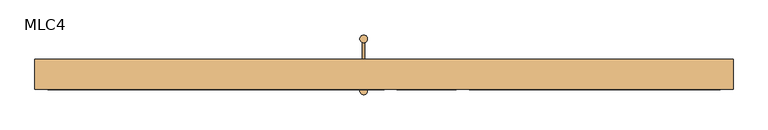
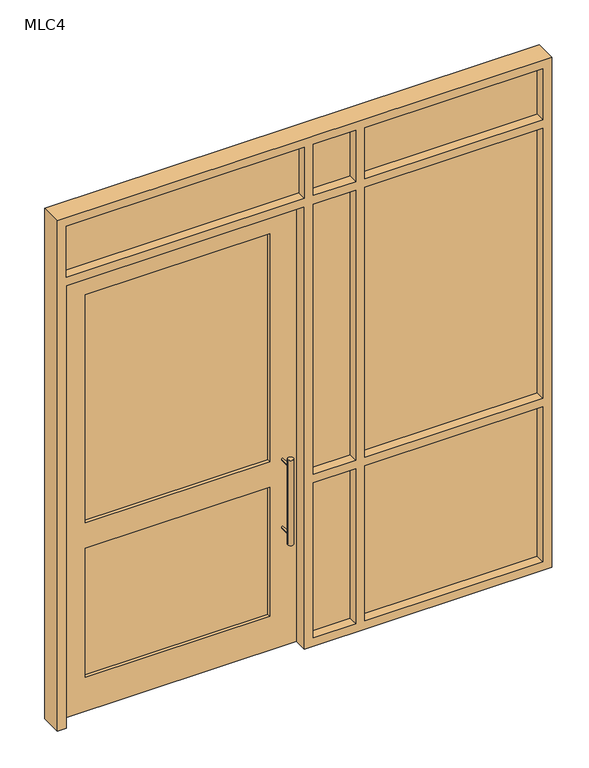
"""IFC4 building model written with IfcOpenShell, lengths in millimetres: door geometry, 单嵌板连窗玻璃门 1 : MLC4."""

from ifc_helpers import new_model, si_unit, point, frame, frame_2d, origin, place, context, project, spatial, polyline, circle_curve, trimmed, segment, composite_curve, outline, extrude, source, transform, mapped, element, save


def mlc4_21794f08(model_context):
    return source(origin(), model_context, "Body", "SweptSolid", [
        extrude(outline(composite_curve([segment(trimmed(circle_curve(frame_2d((-80.0, 130.0)), 15.0), [point((-95.0, 130.0))], [point((-65.0, 130.0))], False, "CARTESIAN"), True, "CONTINUOUS"), segment(trimmed(circle_curve(frame_2d((-80.0, 130.0)), 15.0), [point((-65.0, 130.0))], [point((-95.0, 130.0))], False, "CARTESIAN"), True, "CONTINUOUS")], self_intersect=False)), frame((0.0, 0.0, 650.0), z_axis=(0.0, 0.0, 1.0), x_axis=(1.0, 0.0, 0.0)), (0.0, 0.0, 1.0), 500.0),
        extrude(outline(composite_curve([segment(trimmed(circle_curve(frame_2d((1100.0, -80.0)), 5.0), [point((1100.0, -85.0))], [point((1100.0, -75.0))], False, "CARTESIAN"), True, "CONTINUOUS"), segment(trimmed(circle_curve(frame_2d((1100.0, -80.0)), 5.0), [point((1100.0, -75.0))], [point((1100.0, -85.0))], False, "CARTESIAN"), True, "CONTINUOUS")], self_intersect=False)), frame((0.0, 50.0, 0.0), z_axis=(0.0, 1.0, 0.0), x_axis=(0.0, 0.0, 1.0)), (0.0, 0.0, 1.0), 80.0),
        extrude(outline(composite_curve([segment(trimmed(circle_curve(frame_2d((700.0, -80.0)), 5.0), [point((700.0, -85.0))], [point((700.0, -75.0))], False, "CARTESIAN"), True, "CONTINUOUS"), segment(trimmed(circle_curve(frame_2d((700.0, -80.0)), 5.0), [point((700.0, -75.0))], [point((700.0, -85.0))], False, "CARTESIAN"), True, "CONTINUOUS")], self_intersect=False)), frame((0.0, 50.0, 0.0), z_axis=(0.0, 1.0, 0.0), x_axis=(0.0, 0.0, 1.0)), (0.0, 0.0, 1.0), 80.0),
        extrude(outline(composite_curve([segment(trimmed(circle_curve(frame_2d((1100.0, -80.0)), 5.0), [point((1100.0, -85.0))], [point((1100.0, -75.0))], False, "CARTESIAN"), True, "CONTINUOUS"), segment(trimmed(circle_curve(frame_2d((1100.0, -80.0)), 5.0), [point((1100.0, -75.0))], [point((1100.0, -85.0))], False, "CARTESIAN"), True, "CONTINUOUS")], self_intersect=False)), frame((0.0, -75.0, 0.0), z_axis=(0.0, 1.0, 0.0), x_axis=(0.0, 0.0, 1.0)), (0.0, 0.0, 1.0), 80.0),
        extrude(outline(composite_curve([segment(trimmed(circle_curve(frame_2d((700.0, -80.0)), 5.0), [point((700.0, -85.0))], [point((700.0, -75.0))], False, "CARTESIAN"), True, "CONTINUOUS"), segment(trimmed(circle_curve(frame_2d((700.0, -80.0)), 5.0), [point((700.0, -75.0))], [point((700.0, -85.0))], False, "CARTESIAN"), True, "CONTINUOUS")], self_intersect=False)), frame((0.0, -75.0, 0.0), z_axis=(0.0, 1.0, 0.0), x_axis=(0.0, 0.0, 1.0)), (0.0, 0.0, 1.0), 80.0),
        extrude(outline(composite_curve([segment(trimmed(circle_curve(frame_2d((-80.0, -75.0)), 15.0), [point((-95.0, -75.0))], [point((-65.0, -75.0))], False, "CARTESIAN"), True, "CONTINUOUS"), segment(trimmed(circle_curve(frame_2d((-80.0, -75.0)), 15.0), [point((-65.0, -75.0))], [point((-95.0, -75.0))], False, "CARTESIAN"), True, "CONTINUOUS")], self_intersect=False)), frame((0.0, 0.0, 650.0), z_axis=(0.0, 0.0, 1.0), x_axis=(1.0, 0.0, 0.0)), (0.0, 0.0, 1.0), 500.0),
        extrude(outline(polyline([(-150.0, 24.325), (-1175.0, 24.325), (-1175.0, 30.675), (-150.0, 30.675), (-150.0, 24.325)])), frame((0.0, 0.0, 200.0), z_axis=(0.0, 0.0, 1.0), x_axis=(1.0, 0.0, 0.0)), (0.0, 0.0, 1.0), 760.0),
        extrude(outline(polyline([(-150.0, 24.325), (-1175.0, 24.325), (-1175.0, 30.675), (-150.0, 30.675), (-150.0, 24.325)])), frame((0.0, 0.0, 1110.0), z_axis=(0.0, 0.0, 1.0), x_axis=(1.0, 0.0, 0.0)), (0.0, 0.0, 1.0), 1340.0),
        extrude(outline(polyline([(2600.0, -1325.0), (0.0, -1325.0), (0.0, 0.0), (2600.0, 0.0), (2600.0, -1325.0)]), holes=[polyline([(2450.0, -1175.0), (2450.0, -150.0), (1110.0, -150.0), (1110.0, -1175.0), (2450.0, -1175.0)]), polyline([(960.0, -150.0), (200.0, -150.0), (200.0, -1175.0), (960.0, -1175.0), (960.0, -150.0)])]), frame((0.0, 5.0, 0.0), z_axis=(0.0, 1.0, 0.0), x_axis=(0.0, 0.0, 1.0)), (0.0, 0.0, 1.0), 45.0),
        extrude(outline(polyline([(1325.0, -16.4), (334.8, -16.4), (334.8, -3.6), (1325.0, -3.6), (1325.0, -16.4)])), frame((0.0, 0.0, 1010.0), z_axis=(0.0, 0.0, 1.0), x_axis=(1.0, 0.0, 0.0)), (0.0, 0.0, 1.0), 1590.0),
        extrude(outline(polyline([(1325.0, -16.4), (334.8, -16.4), (334.8, -3.6), (1325.0, -3.6), (1325.0, -16.4)])), frame((0.0, 0.0, 50.0), z_axis=(0.0, 0.0, 1.0), x_axis=(1.0, 0.0, 0.0)), (0.0, 0.0, 1.0), 910.0),
        extrude(outline(polyline([(284.8, -16.4), (50.0, -16.4), (50.0, -3.6), (284.8, -3.6), (284.8, -16.4)])), frame((0.0, 0.0, 50.0), z_axis=(0.0, 0.0, 1.0), x_axis=(1.0, 0.0, 0.0)), (0.0, 0.0, 1.0), 910.0),
        extrude(outline(polyline([(284.8, -16.4), (50.0, -16.4), (50.0, -3.6), (284.8, -3.6), (284.8, -16.4)])), frame((0.0, 0.0, 1010.0), z_axis=(0.0, 0.0, 1.0), x_axis=(1.0, 0.0, 0.0)), (0.0, 0.0, 1.0), 1590.0),
        extrude(outline(polyline([(284.8, -16.4), (50.0, -16.4), (50.0, -3.6), (284.8, -3.6), (284.8, -16.4)])), frame((0.0, 0.0, 2650.0), z_axis=(0.0, 0.0, 1.0), x_axis=(1.0, 0.0, 0.0)), (0.0, 0.0, 1.0), 300.0),
        extrude(outline(polyline([(1325.0, -16.4), (334.8, -16.4), (334.8, -3.6), (1325.0, -3.6), (1325.0, -16.4)])), frame((0.0, 0.0, 2650.0), z_axis=(0.0, 0.0, 1.0), x_axis=(1.0, 0.0, 0.0)), (0.0, 0.0, 1.0), 300.0),
        extrude(outline(polyline([(0.0, -16.4), (-1325.0, -16.4), (-1325.0, -3.6), (0.0, -3.6), (0.0, -16.4)])), frame((0.0, 0.0, 2650.0), z_axis=(0.0, 0.0, 1.0), x_axis=(1.0, 0.0, 0.0)), (0.0, 0.0, 1.0), 300.0),
        extrude(outline(polyline([(0.0, 1375.0), (3000.0, 1375.0), (3000.0, -1375.0), (0.0, -1375.0), (0.0, -1325.0), (2600.0, -1325.0), (2600.0, 0.0), (0.0, 0.0), (0.0, 1375.0)]), holes=[polyline([(960.0, 1325.0), (50.0, 1325.0), (50.0, 334.8), (960.0, 334.8), (960.0, 1325.0)]), polyline([(2600.0, 334.8), (2600.0, 1325.0), (1010.0, 1325.0), (1010.0, 334.8), (2600.0, 334.8)]), polyline([(50.0, 284.8), (50.0, 50.0), (960.0, 50.0), (960.0, 284.8), (50.0, 284.8)]), polyline([(2650.0, 334.8), (2950.0, 334.8), (2950.0, 1325.0), (2650.0, 1325.0), (2650.0, 334.8)]), polyline([(2950.0, 284.8), (2650.0, 284.8), (2650.0, 50.0), (2950.0, 50.0), (2950.0, 284.8)]), polyline([(2650.0, -1325.0), (2950.0, -1325.0), (2950.0, 0.0), (2650.0, 0.0), (2650.0, -1325.0)]), polyline([(2600.0, 50.0), (2600.0, 284.8), (1010.0, 284.8), (1010.0, 50.0), (2600.0, 50.0)])]), frame((0.0, -70.0, 0.0), z_axis=(0.0, 1.0, 0.0), x_axis=(0.0, 0.0, 1.0)), (0.0, 0.0, 1.0), 120.0),
    ])


if __name__ == "__main__":
    model = new_model("IFC4")
    model_context = context("Model", 3, world=origin())
    ifc_project = project(units=[si_unit("LENGTHUNIT", "METRE", prefix="MILLI")], contexts=[model_context])
    site = spatial("IfcSite", under=ifc_project)
    building = spatial("IfcBuilding", under=site)
    placement = place(None, origin())
    mlc4_shape = mlc4_21794f08(model_context)
    element("IfcDoor", 1, ObjectType="单嵌板连窗玻璃门 1 : MLC4", at=placement, inside=building, context=model_context, shape_type="MappedRepresentation", body=[
        mapped(mlc4_shape, transform((0.0, 0.0, 0.0), x_axis=(1.0, 0.0, 0.0), y_axis=(0.0, 1.0, 0.0), z_axis=(0.0, 0.0, 1.0))),
    ])
    save(model, "model.ifc")
